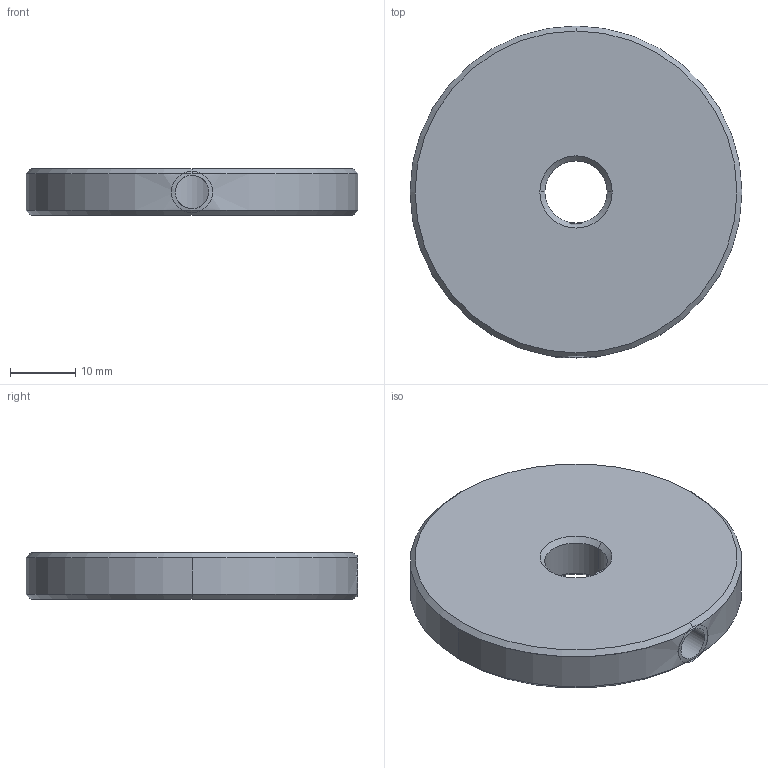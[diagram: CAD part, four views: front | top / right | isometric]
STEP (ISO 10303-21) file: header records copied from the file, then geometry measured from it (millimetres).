
FILE_DESCRIPTION((''),'2;1');
FILE_NAME('RMC-3003','2007-09-27T',('glafferty'),('Pleasant Precision, Inc. (419)675-0556'),'PRO/ENGINEER BY PARAMETRIC TECHNOLOGY CORPORATION, 2006080','PRO/ENGINEER BY PARAMETRIC TECHNOLOGY CORPORATION, 2006080','');
FILE_SCHEMA(('CONFIG_CONTROL_DESIGN'));
Length unit declared in the file: inch
Products named in the file (1): RMC-3003
Bounding box: 50.8 x 50.8 x 7.14 mm (x, y, z)
Volume: 13422.2 mm3; surface area: 5811.5 mm2
Topology: 1 solids, 2 shells, 19 faces, 46 edges, 30 vertices
Faces by surface type: cone 8, cylinder 8, plane 3
Entity records: 676 total; most frequent: CARTESIAN_POINT 158, DIRECTION 106, ORIENTED_EDGE 88, EDGE_CURVE 46, AXIS2_PLACEMENT_3D 44, VERTEX_POINT 30, EDGE_LOOP 24, CIRCLE 24
